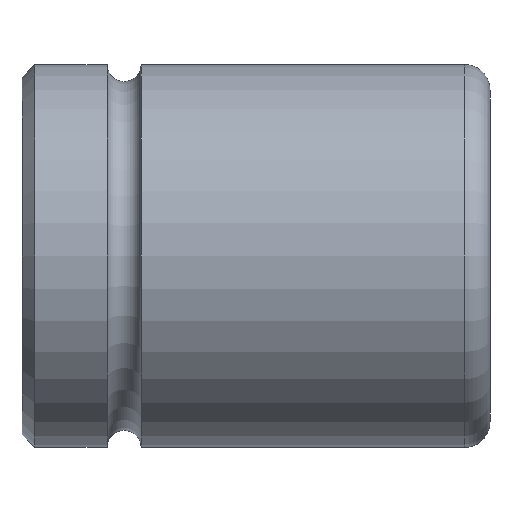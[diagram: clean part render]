
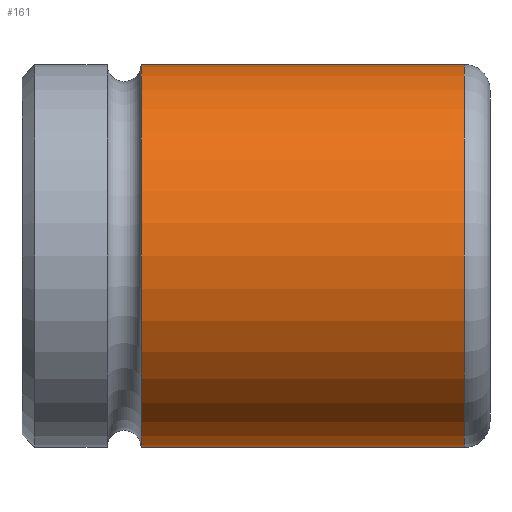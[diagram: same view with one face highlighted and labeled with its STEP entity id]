
A CAD part, front view. The second image highlights one B-rep face of the part: STEP entity #161.
In plain terms, the highlighted cylindrical face has radius 22.5 mm (diameter 45 mm), a full revolution.
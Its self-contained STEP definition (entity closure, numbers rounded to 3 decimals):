
#16=LINE('',#294,#20);
#20=VECTOR('',#243,22.5);
#24=CYLINDRICAL_SURFACE('',#199,22.5);
#34=FACE_OUTER_BOUND('',#44,.T.);
#44=EDGE_LOOP('',(#119,#120,#121,#122,#123,#124));
#57=CIRCLE('',#197,22.5);
#58=CIRCLE('',#198,22.5);
#59=CIRCLE('',#200,22.5);
#60=CIRCLE('',#201,22.5);
#72=VERTEX_POINT('',#287);
#73=VERTEX_POINT('',#289);
#74=VERTEX_POINT('',#293);
#75=VERTEX_POINT('',#295);
#89=EDGE_CURVE('',#72,#73,#57,.T.);
#90=EDGE_CURVE('',#73,#72,#58,.T.);
#91=EDGE_CURVE('',#73,#74,#16,.T.);
#92=EDGE_CURVE('',#74,#75,#59,.T.);
#93=EDGE_CURVE('',#75,#74,#60,.T.);
#119=ORIENTED_EDGE('',*,*,#90,.F.);
#120=ORIENTED_EDGE('',*,*,#91,.T.);
#121=ORIENTED_EDGE('',*,*,#92,.T.);
#122=ORIENTED_EDGE('',*,*,#93,.T.);
#123=ORIENTED_EDGE('',*,*,#91,.F.);
#124=ORIENTED_EDGE('',*,*,#89,.F.);
#161=ADVANCED_FACE('',(#34),#24,.T.);
#197=AXIS2_PLACEMENT_3D('',#290,#237,#238);
#198=AXIS2_PLACEMENT_3D('',#291,#239,#240);
#199=AXIS2_PLACEMENT_3D('',#292,#241,#242);
#200=AXIS2_PLACEMENT_3D('',#296,#244,#245);
#201=AXIS2_PLACEMENT_3D('',#297,#246,#247);
#237=DIRECTION('center_axis',(1.,0.,0.));
#238=DIRECTION('ref_axis',(0.,-1.,0.));
#239=DIRECTION('center_axis',(1.,0.,0.));
#240=DIRECTION('ref_axis',(0.,-1.,0.));
#241=DIRECTION('center_axis',(1.,0.,0.));
#242=DIRECTION('ref_axis',(0.,1.,0.));
#243=DIRECTION('',(-1.,0.,0.));
#244=DIRECTION('center_axis',(1.,0.,0.));
#245=DIRECTION('ref_axis',(0.,0.,-1.));
#246=DIRECTION('center_axis',(1.,0.,0.));
#247=DIRECTION('ref_axis',(0.,0.,-1.));
#287=CARTESIAN_POINT('',(52.,0.,22.5));
#289=CARTESIAN_POINT('',(52.,-22.5,0.));
#290=CARTESIAN_POINT('Origin',(52.,0.,0.));
#291=CARTESIAN_POINT('Origin',(52.,0.,0.));
#292=CARTESIAN_POINT('Origin',(34.5,0.,0.));
#293=CARTESIAN_POINT('',(14.,-22.5,0.));
#294=CARTESIAN_POINT('',(34.5,-22.5,0.));
#295=CARTESIAN_POINT('',(14.,0.,22.5));
#296=CARTESIAN_POINT('Origin',(14.,0.,0.));
#297=CARTESIAN_POINT('Origin',(14.,0.,0.));
